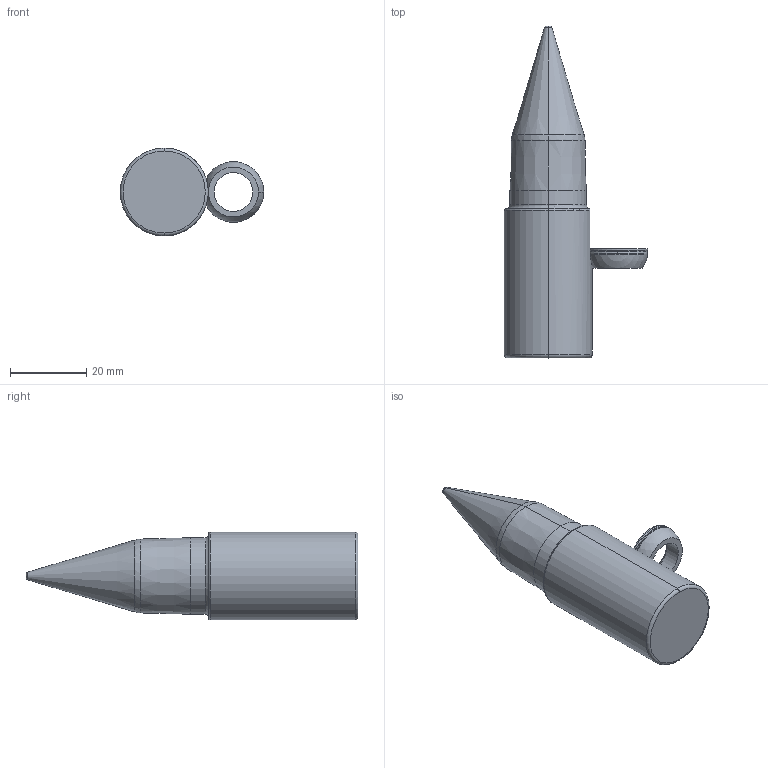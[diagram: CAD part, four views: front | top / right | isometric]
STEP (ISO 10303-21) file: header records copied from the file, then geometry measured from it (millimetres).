
FILE_DESCRIPTION (( 'STEP AP214' ), '1' );
FILE_NAME ('PA-T-20mm-3.8mm-13mm-3-A-F1.STEP', '2019-05-08T18:12:05', ( '' ), ( '' ), 'SwSTEP 2.0', 'SolidWorks 2017', '' );
FILE_SCHEMA (( 'AUTOMOTIVE_DESIGN' ));
Length unit declared in the file: inch
Products named in the file (3): SLPilot-PA-T-M_PA-T-20-3.8-13-3-A-F1; SLRadiusWasher_RadiusWasher-M; PA-T-20mm-3.8mm-13mm-3-A-F1
Assembly tree (2 placements, depth 2):
  PA-T-20mm-3.8mm-13mm-3-A-F1
    SLRadiusWasher_RadiusWasher-M
    SLPilot-PA-T-M_PA-T-20-3.8-13-3-A-F1
Bounding box: 37.55 x 86.81 x 23 mm (x, y, z)
Volume: 25400.9 mm3; surface area: 6000.6 mm2
Topology: 2 solids, 2 shells, 41 faces, 89 edges, 52 vertices
Faces by surface type: torus 15, cylinder 11, cone 6, plane 5, sphere 4
Entity records: 1318 total; most frequent: CARTESIAN_POINT 254, DIRECTION 242, ORIENTED_EDGE 178, AXIS2_PLACEMENT_3D 112, EDGE_CURVE 89, CIRCLE 66, VERTEX_POINT 52, EDGE_LOOP 43
